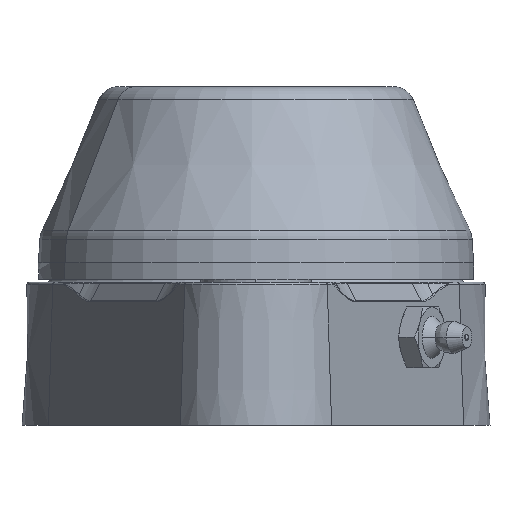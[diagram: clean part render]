
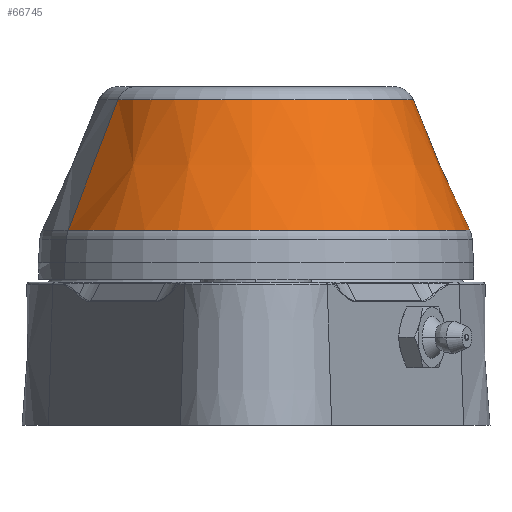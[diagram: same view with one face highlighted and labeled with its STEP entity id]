
A CAD part, left-side view. The second image highlights one B-rep face of the part: STEP entity #66745.
In plain terms, the highlighted conical face has half-angle 23.511 degrees and reference radius 28.546 mm.
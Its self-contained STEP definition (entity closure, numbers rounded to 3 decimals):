
#66669=CARTESIAN_POINT('Vertex',(-13.686,25.051,32.596)) ;
#66676=CARTESIAN_POINT('Vertex',(13.686,-25.051,32.596)) ;
#66691=CARTESIAN_POINT('Axis2P3D Location',(0.,0.,32.596)) ;
#66703=CARTESIAN_POINT('Axis2P3D Location',(0.,0.,32.596)) ;
#66708=CARTESIAN_POINT('Line Origine',(-16.152,29.565,20.773)) ;
#66712=CARTESIAN_POINT('Vertex',(-18.617,34.079,8.95)) ;
#66715=CARTESIAN_POINT('Line Origine',(16.152,-29.565,20.773)) ;
#66719=CARTESIAN_POINT('Vertex',(18.617,-34.079,8.95)) ;
#66734=CARTESIAN_POINT('Axis2P3D Location',(0.,0.,8.95)) ;
#66692=DIRECTION('Axis2P3D Direction',(0.,0.,1.)) ;
#66704=DIRECTION('Axis2P3D Direction',(-0.,-0.,-1.)) ;
#66705=DIRECTION('Axis2P3D XDirection',(-0.479,0.878,0.)) ;
#66709=DIRECTION('Vector Direction',(-0.191,0.35,-0.917)) ;
#66716=DIRECTION('Vector Direction',(0.191,-0.35,-0.917)) ;
#66735=DIRECTION('Axis2P3D Direction',(0.,0.,-1.)) ;
#66693=AXIS2_PLACEMENT_3D('Circle Axis2P3D',#66691,#66692,$) ;
#66706=AXIS2_PLACEMENT_3D('Cone Axis2P3D',#66703,#66704,#66705) ;
#66736=AXIS2_PLACEMENT_3D('Circle Axis2P3D',#66734,#66735,$) ;
#66740=ORIENTED_EDGE('',*,*,#66721,.T.) ;
#66741=ORIENTED_EDGE('',*,*,#66695,.F.) ;
#66742=ORIENTED_EDGE('',*,*,#66714,.F.) ;
#66743=ORIENTED_EDGE('',*,*,#66738,.T.) ;
#66710=VECTOR('Line Direction',#66709,1.) ;
#66717=VECTOR('Line Direction',#66716,1.) ;
#66745=ADVANCED_FACE('PartBody',(#66744),#66707,.T.) ;
#66694=CIRCLE('generated circle',#66693,28.546) ;
#66737=CIRCLE('generated circle',#66736,38.833) ;
#66707=CONICAL_SURFACE('Cone',#66706,28.546,0.41) ;
#66695=EDGE_CURVE('',#66670,#66677,#66694,.T.) ;
#66714=EDGE_CURVE('',#66713,#66670,#66711,.F.) ;
#66721=EDGE_CURVE('',#66720,#66677,#66718,.F.) ;
#66738=EDGE_CURVE('',#66713,#66720,#66737,.F.) ;
#66739=EDGE_LOOP('',(#66740,#66741,#66742,#66743)) ;
#66744=FACE_OUTER_BOUND('',#66739,.T.) ;
#66711=LINE('Line',#66708,#66710) ;
#66718=LINE('Line',#66715,#66717) ;
#66670=VERTEX_POINT('',#66669) ;
#66677=VERTEX_POINT('',#66676) ;
#66713=VERTEX_POINT('',#66712) ;
#66720=VERTEX_POINT('',#66719) ;
